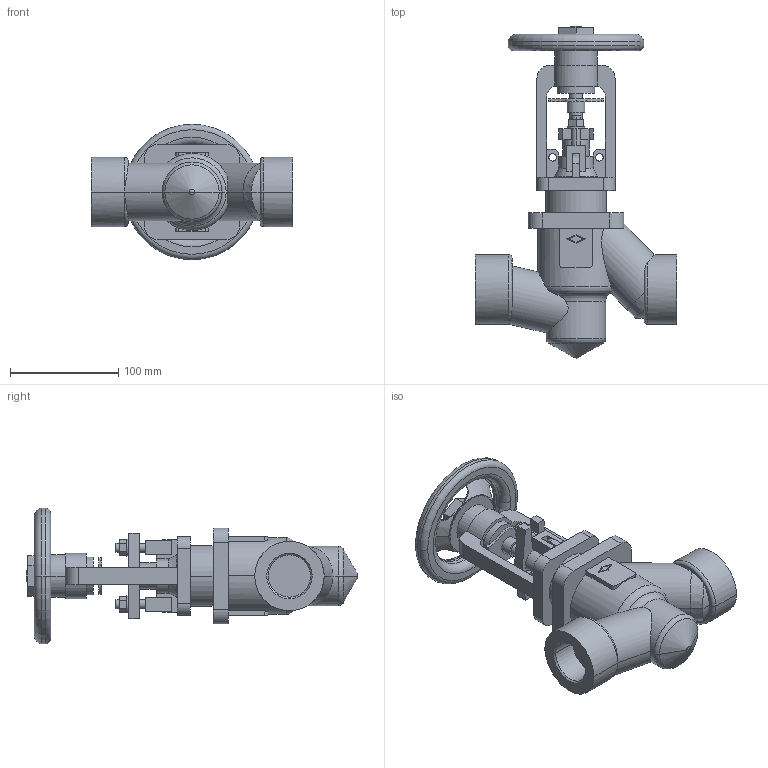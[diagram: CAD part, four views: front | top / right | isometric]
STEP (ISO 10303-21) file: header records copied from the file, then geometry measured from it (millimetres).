
FILE_DESCRIPTION(('OneSpaceDesigner STEP Export'),'2;1');
FILE_NAME('c000004256.stp','2010-05-04T 9:26:37',(''),(''),'OneSpace Designer STEP processor for AP214 (Solid Model)','OneSpace Modeling 15.50B 03-Nov-2007 (C) CoCreate Software GmbH','');
FILE_SCHEMA(('AUTOMOTIVE_DESIGN { 1 0 10303 214 1 1 1 1 }'));
Length unit declared in the file: millimetre
Products named in the file (1): 1
Bounding box: 186 x 306.23 x 125 mm (x, y, z)
Volume: 1157977.2 mm3; surface area: 154265.4 mm2
Topology: 1 solids, 1 shells, 286 faces, 761 edges, 495 vertices
Faces by surface type: plane 141, cylinder 99, torus 24, cone 20, sphere 2
Entity records: 11408 total; most frequent: CARTESIAN_POINT 2335, ORIENTED_EDGE 1522, DIRECTION 1280, EDGE_CURVE 761, VERTEX_POINT 495, AXIS2_PLACEMENT_3D 430, VECTOR 420, LINE 420
